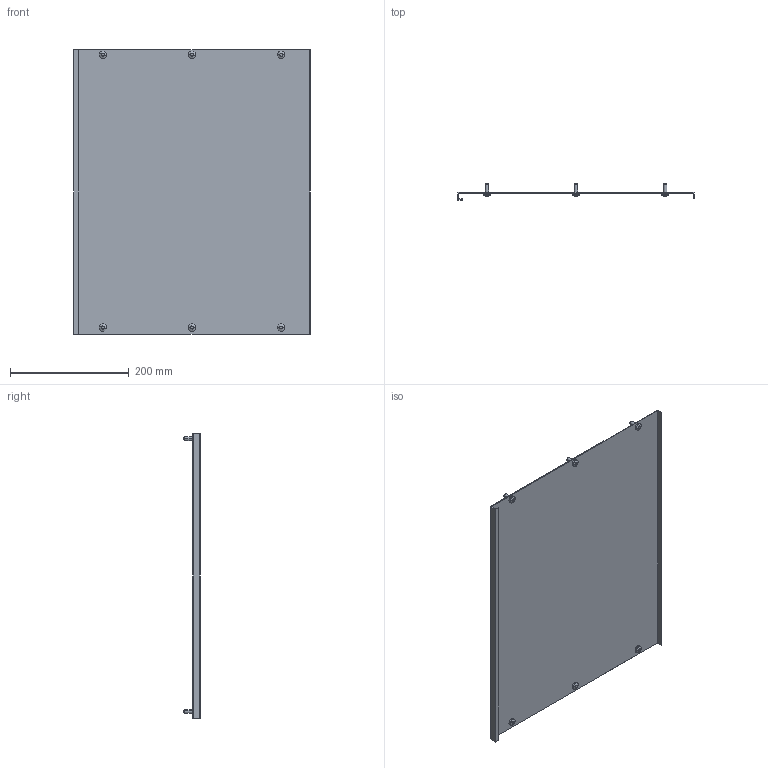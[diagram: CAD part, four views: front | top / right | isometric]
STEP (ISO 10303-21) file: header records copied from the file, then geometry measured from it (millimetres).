
FILE_DESCRIPTION (( 'STEP AP214' ), '1' );
FILE_NAME ('FO-00-PVS-040-060 Ïëàñòðîí ãëóõîé âíóòðåííèé 400õ600.STEP', '2025-09-30T07:42:39', ( '' ), ( '' ), 'SwSTEP 2.0', 'SolidWorks 2023', '' );
FILE_SCHEMA (( 'AUTOMOTIVE_DESIGN' ));
Length unit declared in the file: millimetre
Products named in the file (3): FO-00-PVS-040-060 Пластрон глухой внутренний 400х600; Винт M6x16 040 IEK
Assembly tree (3 placements, depth 2):
  FO-00-PVS-040-060 Пластрон глухой внутренний 400х600
    FO-00-PVS-040-060 Пластрон глухой внутренний 400х600
    Винт M6x16 040 IEK  x2
Bounding box: 398 x 27 x 479 mm (x, y, z)
Volume: 308910.8 mm3; surface area: 412474.7 mm2
Topology: 7 solids, 7 shells, 214 faces, 558 edges, 364 vertices
Faces by surface type: cylinder 132, plane 52, cone 18, bspline 12
Entity records: 4464 total; most frequent: CARTESIAN_POINT 1022, ORIENTED_EDGE 708, DIRECTION 692, EDGE_CURVE 354, AXIS2_PLACEMENT_3D 256, VERTEX_POINT 232, VECTOR 180, LINE 180
